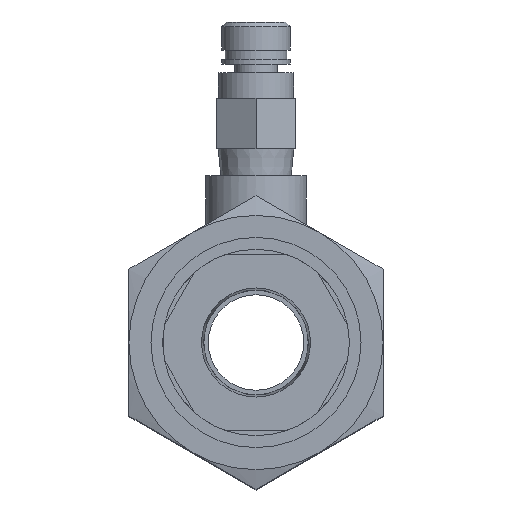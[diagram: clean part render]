
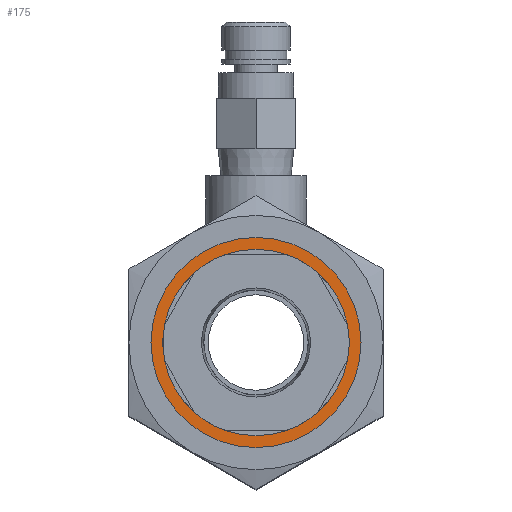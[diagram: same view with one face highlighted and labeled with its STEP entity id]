
A CAD part, left-side view. The second image highlights one B-rep face of the part: STEP entity #175.
In plain terms, the highlighted planar face has unit normal (-1, 0, 0).
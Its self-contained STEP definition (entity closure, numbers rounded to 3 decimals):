
#56 = EDGE_CURVE('',#57,#57,#59,.T.);
#57 = VERTEX_POINT('',#58);
#58 = CARTESIAN_POINT('',(9.554,-1.565,0.005));
#59 = SURFACE_CURVE('',#60,(#65,#77),.PCURVE_S1.);
#60 = CIRCLE('',#61,0.75);
#61 = AXIS2_PLACEMENT_3D('',#62,#63,#64);
#62 = CARTESIAN_POINT('',(9.554,-0.815,0.005));
#63 = DIRECTION('',(1.,0.,0.));
#64 = DIRECTION('',(0.,-1.,0.));
#65 = PCURVE('',#66,#71);
#66 = CYLINDRICAL_SURFACE('',#67,0.75);
#67 = AXIS2_PLACEMENT_3D('',#68,#69,#70);
#68 = CARTESIAN_POINT('',(9.694,-0.815,0.005));
#69 = DIRECTION('',(-1.,0.,0.));
#70 = DIRECTION('',(0.,-1.,0.));
#71 = DEFINITIONAL_REPRESENTATION('',(#72),#76);
#72 = LINE('',#73,#74);
#73 = CARTESIAN_POINT('',(6.283,0.14));
#74 = VECTOR('',#75,1.);
#75 = DIRECTION('',(-1.,0.));
#76 = ( GEOMETRIC_REPRESENTATION_CONTEXT(2) 
PARAMETRIC_REPRESENTATION_CONTEXT() REPRESENTATION_CONTEXT('2D SPACE',''
  ) );
#77 = PCURVE('',#78,#83);
#78 = PLANE('',#79);
#79 = AXIS2_PLACEMENT_3D('',#80,#81,#82);
#80 = CARTESIAN_POINT('',(9.554,-0.815,0.005));
#81 = DIRECTION('',(-1.,0.,0.));
#82 = DIRECTION('',(0.,0.,-1.));
#83 = DEFINITIONAL_REPRESENTATION('',(#84),#92);
#84 = ( BOUNDED_CURVE() B_SPLINE_CURVE(2,(#85,#86,#87,#88,#89,#90,#91),
.UNSPECIFIED.,.T.,.F.) B_SPLINE_CURVE_WITH_KNOTS((1,2,2,2,2,1),(
    -2.094,0.,2.094,4.189,6.283,
8.378),.UNSPECIFIED.) CURVE() GEOMETRIC_REPRESENTATION_ITEM() 
RATIONAL_B_SPLINE_CURVE((1.,0.5,1.,0.5,1.,0.5,1.)) REPRESENTATION_ITEM(
  '') );
#85 = CARTESIAN_POINT('',(0.,0.75));
#86 = CARTESIAN_POINT('',(1.299,0.75));
#87 = CARTESIAN_POINT('',(0.65,-0.375));
#88 = CARTESIAN_POINT('',(0.,-1.5));
#89 = CARTESIAN_POINT('',(-0.65,-0.375));
#90 = CARTESIAN_POINT('',(-1.299,0.75));
#91 = CARTESIAN_POINT('',(0.,0.75));
#92 = ( GEOMETRIC_REPRESENTATION_CONTEXT(2) 
PARAMETRIC_REPRESENTATION_CONTEXT() REPRESENTATION_CONTEXT('2D SPACE',''
  ) );
#175 = ADVANCED_FACE('',(#176,#211),#78,.T.);
#176 = FACE_BOUND('',#177,.T.);
#177 = EDGE_LOOP('',(#178));
#178 = ORIENTED_EDGE('',*,*,#179,.T.);
#179 = EDGE_CURVE('',#180,#180,#182,.T.);
#180 = VERTEX_POINT('',#181);
#181 = CARTESIAN_POINT('',(9.554,-1.48,0.005));
#182 = SURFACE_CURVE('',#183,(#188,#199),.PCURVE_S1.);
#183 = CIRCLE('',#184,0.665);
#184 = AXIS2_PLACEMENT_3D('',#185,#186,#187);
#185 = CARTESIAN_POINT('',(9.554,-0.815,0.005));
#186 = DIRECTION('',(1.,0.,0.));
#187 = DIRECTION('',(0.,-1.,0.));
#188 = PCURVE('',#78,#189);
#189 = DEFINITIONAL_REPRESENTATION('',(#190),#198);
#190 = ( BOUNDED_CURVE() B_SPLINE_CURVE(2,(#191,#192,#193,#194,#195,#196
,#197),.UNSPECIFIED.,.T.,.F.) B_SPLINE_CURVE_WITH_KNOTS((1,2,2,2,2,1),(
    -2.094,0.,2.094,4.189,6.283,
8.378),.UNSPECIFIED.) CURVE() GEOMETRIC_REPRESENTATION_ITEM() 
RATIONAL_B_SPLINE_CURVE((1.,0.5,1.,0.5,1.,0.5,1.)) REPRESENTATION_ITEM(
  '') );
#191 = CARTESIAN_POINT('',(0.,0.665));
#192 = CARTESIAN_POINT('',(1.152,0.665));
#193 = CARTESIAN_POINT('',(0.576,-0.333));
#194 = CARTESIAN_POINT('',(0.,-1.33));
#195 = CARTESIAN_POINT('',(-0.576,-0.333));
#196 = CARTESIAN_POINT('',(-1.152,0.665));
#197 = CARTESIAN_POINT('',(0.,0.665));
#198 = ( GEOMETRIC_REPRESENTATION_CONTEXT(2) 
PARAMETRIC_REPRESENTATION_CONTEXT() REPRESENTATION_CONTEXT('2D SPACE',''
  ) );
#199 = PCURVE('',#200,#205);
#200 = CYLINDRICAL_SURFACE('',#201,0.665);
#201 = AXIS2_PLACEMENT_3D('',#202,#203,#204);
#202 = CARTESIAN_POINT('',(9.554,-0.815,0.005));
#203 = DIRECTION('',(-1.,0.,0.));
#204 = DIRECTION('',(0.,-1.,0.));
#205 = DEFINITIONAL_REPRESENTATION('',(#206),#210);
#206 = LINE('',#207,#208);
#207 = CARTESIAN_POINT('',(6.283,0.));
#208 = VECTOR('',#209,1.);
#209 = DIRECTION('',(-1.,0.));
#210 = ( GEOMETRIC_REPRESENTATION_CONTEXT(2) 
PARAMETRIC_REPRESENTATION_CONTEXT() REPRESENTATION_CONTEXT('2D SPACE',''
  ) );
#211 = FACE_BOUND('',#212,.T.);
#212 = EDGE_LOOP('',(#213));
#213 = ORIENTED_EDGE('',*,*,#56,.F.);
